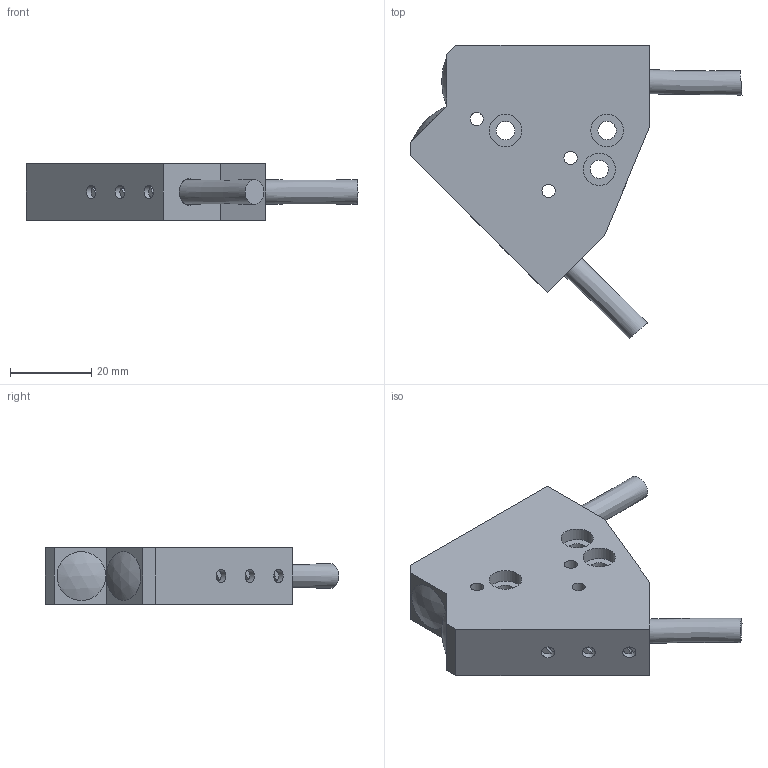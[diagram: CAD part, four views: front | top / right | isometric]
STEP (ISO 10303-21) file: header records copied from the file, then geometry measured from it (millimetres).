
FILE_DESCRIPTION(/* description */ (''),/* implementation_level */ '2;1');
FILE_NAME(/* name */ 'T:\E-Mail-Zeichnungen\STEP\KL-D-0°-45°-13.5-A2.0_1364_00.stp',/* time_stamp */ '2020-02-11T12:35:02+01:00',/* author */ ('guenther.breit'),/* organization */ (''),/* preprocessor_version */ 'ST-DEVELOPER v18',/* originating_system */ 'Autodesk Inventor 2020',/* authorisation */ '');
FILE_SCHEMA (('AUTOMOTIVE_DESIGN { 1 0 10303 214 3 1 1 }'));
Length unit declared in the file: millimetre
Products named in the file (1): Bauteil1
Bounding box: 81.72 x 72.28 x 14 mm (x, y, z)
Volume: 34149.8 mm3; surface area: 9662.9 mm2
Topology: 1 solids, 1 shells, 69 faces, 177 edges, 125 vertices
Faces by surface type: plane 48, cylinder 17, bspline 2, sphere 2
Full cylindrical faces by diameter (mm): 3.242 x9, 4.5 x3, 6.65 x2, 8 x3
Entity records: 2840 total; most frequent: CARTESIAN_POINT 907, DIRECTION 390, ORIENTED_EDGE 354, EDGE_CURVE 177, AXIS2_PLACEMENT_3D 149, VERTEX_POINT 125, EDGE_LOOP 96, LINE 92
